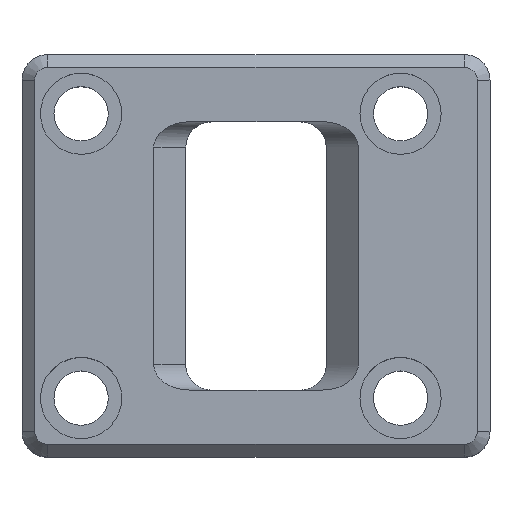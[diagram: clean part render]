
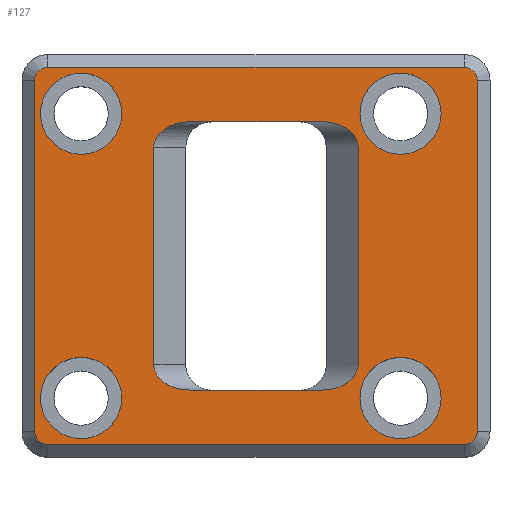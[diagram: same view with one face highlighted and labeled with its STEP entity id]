
A CAD part, top view. The second image highlights one B-rep face of the part: STEP entity #127.
In plain terms, the highlighted planar face has unit normal (0, 0, 1).
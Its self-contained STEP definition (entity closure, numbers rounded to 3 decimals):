
#127 = ADVANCED_FACE( '', ( #300, #301, #302, #303, #304, #305 ), #306, .T. );
#300 = FACE_OUTER_BOUND( '', #521, .T. );
#301 = FACE_BOUND( '', #522, .T. );
#302 = FACE_BOUND( '', #523, .T. );
#303 = FACE_BOUND( '', #524, .T. );
#304 = FACE_BOUND( '', #525, .T. );
#305 = FACE_BOUND( '', #526, .T. );
#306 = PLANE( '', #527 );
#521 = EDGE_LOOP( '', ( #842, #843, #844, #845, #846, #847, #848, #849 ) );
#522 = EDGE_LOOP( '', ( #850 ) );
#523 = EDGE_LOOP( '', ( #851 ) );
#524 = EDGE_LOOP( '', ( #852 ) );
#525 = EDGE_LOOP( '', ( #853 ) );
#526 = EDGE_LOOP( '', ( #854, #855, #856, #857, #858, #859, #860, #861 ) );
#527 = AXIS2_PLACEMENT_3D( '', #862, #863, #864 );
#842 = ORIENTED_EDGE( '', *, *, #1166, .T. );
#843 = ORIENTED_EDGE( '', *, *, #1263, .T. );
#844 = ORIENTED_EDGE( '', *, *, #1264, .T. );
#845 = ORIENTED_EDGE( '', *, *, #1265, .T. );
#846 = ORIENTED_EDGE( '', *, *, #1219, .T. );
#847 = ORIENTED_EDGE( '', *, *, #1176, .T. );
#848 = ORIENTED_EDGE( '', *, *, #1266, .T. );
#849 = ORIENTED_EDGE( '', *, *, #1267, .T. );
#850 = ORIENTED_EDGE( '', *, *, #1192, .T. );
#851 = ORIENTED_EDGE( '', *, *, #1198, .T. );
#852 = ORIENTED_EDGE( '', *, *, #1217, .T. );
#853 = ORIENTED_EDGE( '', *, *, #1268, .T. );
#854 = ORIENTED_EDGE( '', *, *, #1269, .T. );
#855 = ORIENTED_EDGE( '', *, *, #1232, .T. );
#856 = ORIENTED_EDGE( '', *, *, #1270, .T. );
#857 = ORIENTED_EDGE( '', *, *, #1271, .T. );
#858 = ORIENTED_EDGE( '', *, *, #1272, .T. );
#859 = ORIENTED_EDGE( '', *, *, #1273, .T. );
#860 = ORIENTED_EDGE( '', *, *, #1181, .T. );
#861 = ORIENTED_EDGE( '', *, *, #1274, .T. );
#862 = CARTESIAN_POINT( '', ( 0., 0., 21. ) );
#863 = DIRECTION( '', ( 0., 0., 1. ) );
#864 = DIRECTION( '', ( 1., 0., 0. ) );
#1166 = EDGE_CURVE( '', #1361, #1366, #1368, .T. );
#1176 = EDGE_CURVE( '', #1380, #1384, #1386, .T. );
#1181 = EDGE_CURVE( '', #1393, #1394, #1395, .T. );
#1192 = EDGE_CURVE( '', #1412, #1412, #1413, .T. );
#1198 = EDGE_CURVE( '', #1422, #1422, #1423, .T. );
#1217 = EDGE_CURVE( '', #1457, #1457, #1458, .T. );
#1219 = EDGE_CURVE( '', #1460, #1380, #1461, .T. );
#1232 = EDGE_CURVE( '', #1482, #1480, #1483, .F. );
#1263 = EDGE_CURVE( '', #1366, #1531, #1532, .T. );
#1264 = EDGE_CURVE( '', #1531, #1533, #1534, .T. );
#1265 = EDGE_CURVE( '', #1533, #1460, #1535, .T. );
#1266 = EDGE_CURVE( '', #1384, #1536, #1537, .T. );
#1267 = EDGE_CURVE( '', #1536, #1361, #1538, .T. );
#1268 = EDGE_CURVE( '', #1539, #1539, #1540, .T. );
#1269 = EDGE_CURVE( '', #1541, #1482, #1542, .T. );
#1270 = EDGE_CURVE( '', #1480, #1543, #1544, .T. );
#1271 = EDGE_CURVE( '', #1543, #1545, #1546, .F. );
#1272 = EDGE_CURVE( '', #1545, #1547, #1548, .T. );
#1273 = EDGE_CURVE( '', #1547, #1393, #1549, .F. );
#1274 = EDGE_CURVE( '', #1394, #1541, #1550, .F. );
#1361 = VERTEX_POINT( '', #1648 );
#1366 = VERTEX_POINT( '', #1654 );
#1368 = CIRCLE( '', #1657, 2. );
#1380 = VERTEX_POINT( '', #1671 );
#1384 = VERTEX_POINT( '', #1677 );
#1386 = LINE( '', #1680, #1681 );
#1393 = VERTEX_POINT( '', #1688 );
#1394 = VERTEX_POINT( '', #1689 );
#1395 = LINE( '', #1690, #1691 );
#1412 = VERTEX_POINT( '', #1713 );
#1413 = CIRCLE( '', #1714, 6.35 );
#1422 = VERTEX_POINT( '', #1723 );
#1423 = CIRCLE( '', #1724, 6.35 );
#1457 = VERTEX_POINT( '', #1766 );
#1458 = CIRCLE( '', #1767, 6.35 );
#1460 = VERTEX_POINT( '', #1769 );
#1461 = CIRCLE( '', #1770, 2. );
#1480 = VERTEX_POINT( '', #1793 );
#1482 = VERTEX_POINT( '', #1796 );
#1483 = ELLIPSE( '', #1797, 5.657, 4. );
#1531 = VERTEX_POINT( '', #1856 );
#1532 = LINE( '', #1857, #1858 );
#1533 = VERTEX_POINT( '', #1859 );
#1534 = CIRCLE( '', #1860, 2. );
#1535 = LINE( '', #1861, #1862 );
#1536 = VERTEX_POINT( '', #1863 );
#1537 = CIRCLE( '', #1864, 2. );
#1538 = LINE( '', #1865, #1866 );
#1539 = VERTEX_POINT( '', #1867 );
#1540 = CIRCLE( '', #1868, 6.35 );
#1541 = VERTEX_POINT( '', #1869 );
#1542 = LINE( '', #1870, #1871 );
#1543 = VERTEX_POINT( '', #1872 );
#1544 = LINE( '', #1873, #1874 );
#1545 = VERTEX_POINT( '', #1875 );
#1546 = ELLIPSE( '', #1876, 5.657, 4. );
#1547 = VERTEX_POINT( '', #1877 );
#1548 = LINE( '', #1878, #1879 );
#1549 = ELLIPSE( '', #1880, 5.657, 4. );
#1550 = ELLIPSE( '', #1881, 5.657, 4. );
#1648 = CARTESIAN_POINT( '', ( 69.25, 2., 21. ) );
#1654 = CARTESIAN_POINT( '', ( 71.25, 4., 21. ) );
#1657 = AXIS2_PLACEMENT_3D( '', #2006, #2007, #2008 );
#1671 = CARTESIAN_POINT( '', ( 2., 59., 21. ) );
#1677 = CARTESIAN_POINT( '', ( 2., 4., 21. ) );
#1680 = CARTESIAN_POINT( '', ( 2., 4., 21. ) );
#1681 = VECTOR( '', #2020, 1000. );
#1688 = CARTESIAN_POINT( '', ( 52.625, 48.5, 21. ) );
#1689 = CARTESIAN_POINT( '', ( 52.625, 14.498, 21. ) );
#1690 = CARTESIAN_POINT( '', ( 52.625, 0., 21. ) );
#1691 = VECTOR( '', #2027, 1000. );
#1713 = CARTESIAN_POINT( '', ( 59.25, 47.4, 21. ) );
#1714 = AXIS2_PLACEMENT_3D( '', #2042, #2043, #2044 );
#1723 = CARTESIAN_POINT( '', ( 59.25, 2.9, 21. ) );
#1724 = AXIS2_PLACEMENT_3D( '', #2054, #2055, #2056 );
#1766 = CARTESIAN_POINT( '', ( 9.25, 2.9, 21. ) );
#1767 = AXIS2_PLACEMENT_3D( '', #2089, #2090, #2091 );
#1769 = CARTESIAN_POINT( '', ( 4., 61., 21. ) );
#1770 = AXIS2_PLACEMENT_3D( '', #2092, #2093, #2094 );
#1793 = CARTESIAN_POINT( '', ( 20.625, 14.5, 21. ) );
#1796 = CARTESIAN_POINT( '', ( 26.281, 10.5, 21. ) );
#1797 = AXIS2_PLACEMENT_3D( '', #2112, #2113, #2114 );
#1856 = CARTESIAN_POINT( '', ( 71.25, 59., 21. ) );
#1857 = CARTESIAN_POINT( '', ( 71.25, 59., 21. ) );
#1858 = VECTOR( '', #2165, 1000. );
#1859 = CARTESIAN_POINT( '', ( 69.25, 61., 21. ) );
#1860 = AXIS2_PLACEMENT_3D( '', #2166, #2167, #2168 );
#1861 = CARTESIAN_POINT( '', ( 4., 61., 21. ) );
#1862 = VECTOR( '', #2169, 1000. );
#1863 = CARTESIAN_POINT( '', ( 4., 2., 21. ) );
#1864 = AXIS2_PLACEMENT_3D( '', #2170, #2171, #2172 );
#1865 = CARTESIAN_POINT( '', ( 69.25, 2., 21. ) );
#1866 = VECTOR( '', #2173, 1000. );
#1867 = CARTESIAN_POINT( '', ( 9.25, 47.4, 21. ) );
#1868 = AXIS2_PLACEMENT_3D( '', #2174, #2175, #2176 );
#1869 = CARTESIAN_POINT( '', ( 46.968, 10.498, 21. ) );
#1870 = CARTESIAN_POINT( '', ( 0.001, 10.502, 21. ) );
#1871 = VECTOR( '', #2177, 1000. );
#1872 = CARTESIAN_POINT( '', ( 20.625, 48.5, 21. ) );
#1873 = CARTESIAN_POINT( '', ( 20.625, 0., 21. ) );
#1874 = VECTOR( '', #2178, 1000. );
#1875 = CARTESIAN_POINT( '', ( 26.282, 52.5, 21. ) );
#1876 = AXIS2_PLACEMENT_3D( '', #2179, #2180, #2181 );
#1877 = CARTESIAN_POINT( '', ( 46.968, 52.5, 21. ) );
#1878 = CARTESIAN_POINT( '', ( -0.001, 52.499, 21. ) );
#1879 = VECTOR( '', #2182, 1000. );
#1880 = AXIS2_PLACEMENT_3D( '', #2183, #2184, #2185 );
#1881 = AXIS2_PLACEMENT_3D( '', #2186, #2187, #2188 );
#2006 = CARTESIAN_POINT( '', ( 69.25, 4., 21. ) );
#2007 = DIRECTION( '', ( 0., 0., 1. ) );
#2008 = DIRECTION( '', ( 1., 0., 0. ) );
#2020 = DIRECTION( '', ( 0., -1., 0. ) );
#2027 = DIRECTION( '', ( 0., -1., 0. ) );
#2042 = CARTESIAN_POINT( '', ( 59.25, 53.75, 21. ) );
#2043 = DIRECTION( '', ( 0., 0., -1. ) );
#2044 = DIRECTION( '', ( 0., -1., 0. ) );
#2054 = CARTESIAN_POINT( '', ( 59.25, 9.25, 21. ) );
#2055 = DIRECTION( '', ( 0., 0., -1. ) );
#2056 = DIRECTION( '', ( 0., -1., 0. ) );
#2089 = CARTESIAN_POINT( '', ( 9.25, 9.25, 21. ) );
#2090 = DIRECTION( '', ( 0., 0., -1. ) );
#2091 = DIRECTION( '', ( 0., -1., 0. ) );
#2092 = CARTESIAN_POINT( '', ( 4., 59., 21. ) );
#2093 = DIRECTION( '', ( 0., 0., 1. ) );
#2094 = DIRECTION( '', ( 1., 0., 0. ) );
#2112 = CARTESIAN_POINT( '', ( 26.282, 14.5, 21. ) );
#2113 = DIRECTION( '', ( 0., 0., 1. ) );
#2114 = DIRECTION( '', ( -1., 0., 0. ) );
#2165 = DIRECTION( '', ( 0., 1., 0. ) );
#2166 = CARTESIAN_POINT( '', ( 69.25, 59., 21. ) );
#2167 = DIRECTION( '', ( 0., 0., 1. ) );
#2168 = DIRECTION( '', ( 1., 0., 0. ) );
#2169 = DIRECTION( '', ( -1., 0., 0. ) );
#2170 = CARTESIAN_POINT( '', ( 4., 4., 21. ) );
#2171 = DIRECTION( '', ( 0., 0., 1. ) );
#2172 = DIRECTION( '', ( 1., 0., 0. ) );
#2173 = DIRECTION( '', ( 1., 0., 0. ) );
#2174 = CARTESIAN_POINT( '', ( 9.25, 53.75, 21. ) );
#2175 = DIRECTION( '', ( 0., 0., -1. ) );
#2176 = DIRECTION( '', ( 0., -1., 0. ) );
#2177 = DIRECTION( '', ( -1., 0., 0. ) );
#2178 = DIRECTION( '', ( 0., 1., 0. ) );
#2179 = CARTESIAN_POINT( '', ( 26.282, 48.5, 21. ) );
#2180 = DIRECTION( '', ( 0., 0., 1. ) );
#2181 = DIRECTION( '', ( 1., 0., 0. ) );
#2182 = DIRECTION( '', ( 1., 0., 0. ) );
#2183 = CARTESIAN_POINT( '', ( 46.968, 48.5, 21. ) );
#2184 = DIRECTION( '', ( 0., 0., 1. ) );
#2185 = DIRECTION( '', ( 1., 0., 0. ) );
#2186 = CARTESIAN_POINT( '', ( 46.968, 14.498, 21. ) );
#2187 = DIRECTION( '', ( 0., 0., 1. ) );
#2188 = DIRECTION( '', ( -1., 0., 0. ) );
